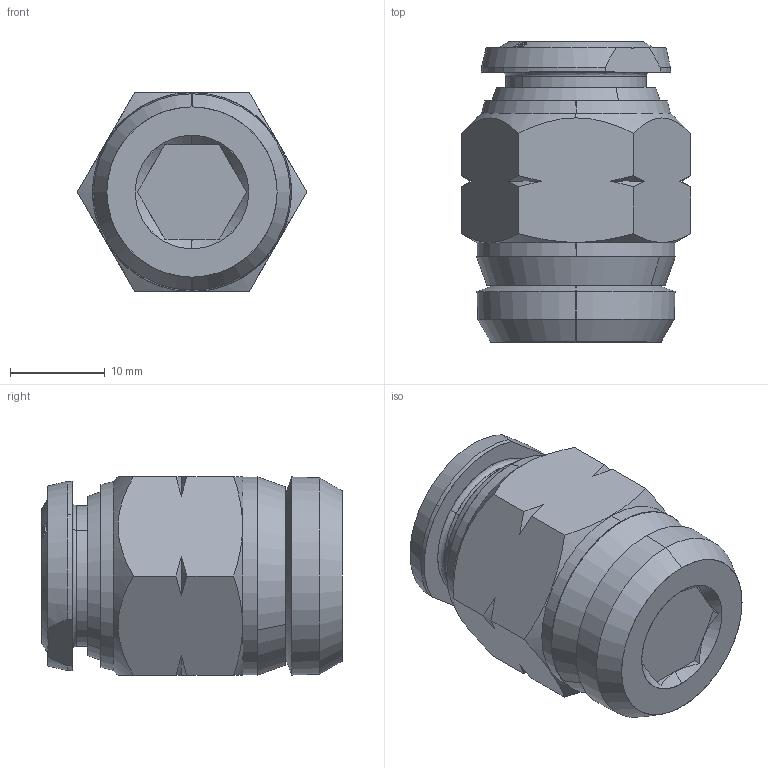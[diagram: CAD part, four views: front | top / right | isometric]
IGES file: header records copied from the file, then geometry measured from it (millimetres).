
Start section: SolidWorks IGES file using analytic representation for surfaces
Global section: file name: K:\Disegni Esecutivi\Alpha Technologies\Assiemi-87000\87000\87000_iges\8700000017A.IGS; native system: SolidWorks 2009; preprocessor: SolidWorks 2009; author: cad05; date: 091021.142125; units: millimetre
Bounding box: 24.25 x 31.75 x 21.03 mm (x, y, z)
Surface area: 3285.5 mm2 (no closed solid volume)
Topology: 0 solids, 0 shells, 150 faces, 1771 edges, 1771 vertices
Faces by surface type: bspline 85, revolution 65
